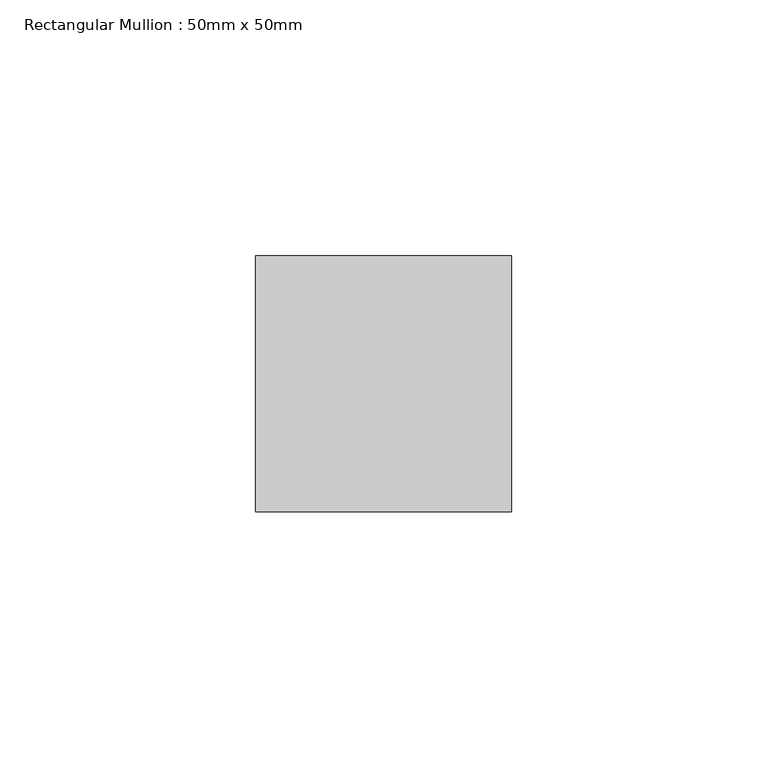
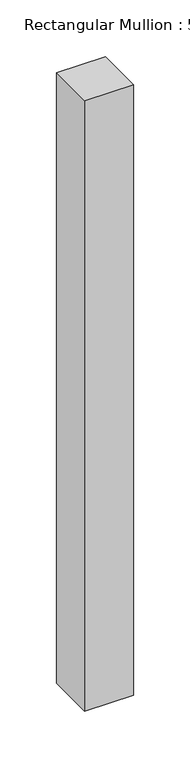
"""IFC4 building model written with IfcOpenShell, lengths in millimetres: member geometry, Rectangular Mullion : 50mm x 50mm."""

from ifc_helpers import new_model, si_unit, frame, origin, place, context, project, spatial, polyline, outline, extrude, source, transform, mapped, element, save


def rectangular_mullion_50mm_x_50mm_beccc520(model_context):
    return source(origin(), model_context, "Body", "SweptSolid", [
        extrude(outline(polyline([(0.0, 25.0), (0.0, -25.0), (-50.0, -25.0), (-50.0, 25.0), (0.0, 25.0)])), frame((0.0, 0.0, -658.8377067), z_axis=(0.0, 0.0, 1.0), x_axis=(1.0, 0.0, 0.0)), (0.0, 0.0, 1.0), 658.8377067),
    ])


if __name__ == "__main__":
    model = new_model("IFC4")
    model_context = context("Model", 3, world=origin())
    ifc_project = project(units=[si_unit("LENGTHUNIT", "METRE", prefix="MILLI")], contexts=[model_context])
    site = spatial("IfcSite", under=ifc_project)
    building = spatial("IfcBuilding", under=site)
    placement = place(None, origin())
    rectangular_mullion_50mm_x_50mm_shape = rectangular_mullion_50mm_x_50mm_beccc520(model_context)
    element("IfcMember", 1, ObjectType="Rectangular Mullion : 50mm x 50mm", at=placement, inside=building, context=model_context, shape_type="MappedRepresentation", body=[
        mapped(rectangular_mullion_50mm_x_50mm_shape, transform((0.0, 0.0, 0.0), x_axis=(1.0, 0.0, 0.0), y_axis=(0.0, 1.0, 0.0), z_axis=(0.0, 0.0, 1.0))),
    ])
    save(model, "model.ifc")
